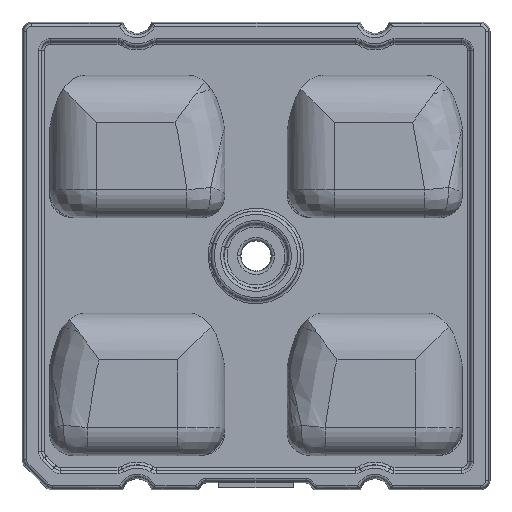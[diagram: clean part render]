
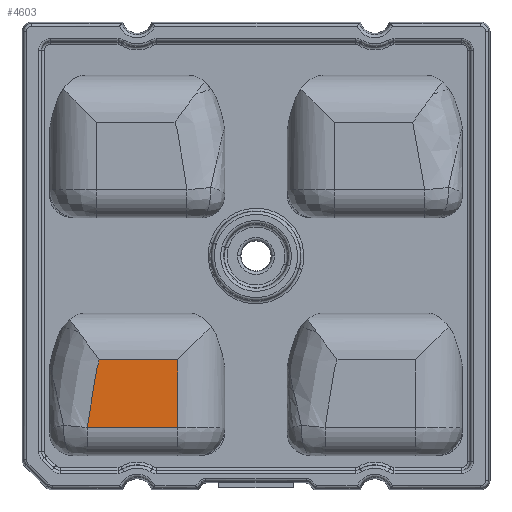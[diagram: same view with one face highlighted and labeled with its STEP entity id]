
A CAD part, top view. The second image highlights one B-rep face of the part: STEP entity #4603.
In plain terms, the highlighted planar face has unit normal (0, 0, 1).
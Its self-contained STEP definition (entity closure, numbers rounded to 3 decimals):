
#208=CARTESIAN_POINT('Axis2P3D Location',(0.,0.,6.25)) ;
#4394=CARTESIAN_POINT('Line Origine',(0.359,-23.811,6.25)) ;
#4398=CARTESIAN_POINT('Vertex',(4.352,-23.811,6.25)) ;
#4400=CARTESIAN_POINT('Vertex',(-4.047,-23.811,6.25)) ;
#4545=CARTESIAN_POINT('Line Origine',(4.352,-27.423,6.25)) ;
#4549=CARTESIAN_POINT('Vertex',(4.352,-31.036,6.25)) ;
#4553=CARTESIAN_POINT('Control Point',(-4.047,-23.811,6.25)) ;
#4554=CARTESIAN_POINT('Control Point',(-4.062,-23.86,6.25)) ;
#4555=CARTESIAN_POINT('Control Point',(-4.077,-23.908,6.25)) ;
#4556=CARTESIAN_POINT('Control Point',(-4.092,-23.956,6.25)) ;
#4557=CARTESIAN_POINT('Control Point',(-4.136,-24.099,6.25)) ;
#4558=CARTESIAN_POINT('Control Point',(-4.175,-24.23,6.25)) ;
#4559=CARTESIAN_POINT('Control Point',(-4.199,-24.311,6.25)) ;
#4560=CARTESIAN_POINT('Control Point',(-4.234,-24.436,6.25)) ;
#4561=CARTESIAN_POINT('Control Point',(-4.259,-24.535,6.25)) ;
#4562=CARTESIAN_POINT('Control Point',(-4.269,-24.576,6.25)) ;
#4563=CARTESIAN_POINT('Control Point',(-4.29,-24.664,6.25)) ;
#4564=CARTESIAN_POINT('Control Point',(-4.312,-24.773,6.25)) ;
#4565=CARTESIAN_POINT('Control Point',(-4.325,-24.835,6.25)) ;
#4566=CARTESIAN_POINT('Control Point',(-4.35,-24.967,6.25)) ;
#4567=CARTESIAN_POINT('Control Point',(-4.378,-25.119,6.25)) ;
#4568=CARTESIAN_POINT('Control Point',(-4.391,-25.193,6.25)) ;
#4569=CARTESIAN_POINT('Control Point',(-4.42,-25.356,6.25)) ;
#4570=CARTESIAN_POINT('Control Point',(-4.449,-25.526,6.25)) ;
#4571=CARTESIAN_POINT('Control Point',(-4.464,-25.618,6.25)) ;
#4572=CARTESIAN_POINT('Control Point',(-4.503,-25.852,6.25)) ;
#4573=CARTESIAN_POINT('Control Point',(-4.542,-26.09,6.25)) ;
#4574=CARTESIAN_POINT('Control Point',(-4.565,-26.235,6.25)) ;
#4575=CARTESIAN_POINT('Control Point',(-4.613,-26.53,6.25)) ;
#4576=CARTESIAN_POINT('Control Point',(-4.66,-26.826,6.25)) ;
#4577=CARTESIAN_POINT('Control Point',(-4.68,-26.951,6.25)) ;
#4578=CARTESIAN_POINT('Control Point',(-4.75,-27.388,6.25)) ;
#4579=CARTESIAN_POINT('Control Point',(-4.818,-27.821,6.25)) ;
#4580=CARTESIAN_POINT('Control Point',(-4.863,-28.105,6.25)) ;
#4581=CARTESIAN_POINT('Control Point',(-4.952,-28.669,6.25)) ;
#4582=CARTESIAN_POINT('Control Point',(-5.041,-29.235,6.25)) ;
#4583=CARTESIAN_POINT('Control Point',(-5.092,-29.561,6.25)) ;
#4584=CARTESIAN_POINT('Control Point',(-5.166,-30.033,6.25)) ;
#4585=CARTESIAN_POINT('Control Point',(-5.24,-30.503,6.25)) ;
#4586=CARTESIAN_POINT('Control Point',(-5.269,-30.69,6.25)) ;
#4587=CARTESIAN_POINT('Control Point',(-5.297,-30.867,6.25)) ;
#4588=CARTESIAN_POINT('Control Point',(-5.323,-31.036,6.25)) ;
#4589=CARTESIAN_POINT('Vertex',(-5.323,-31.036,6.25)) ;
#4592=CARTESIAN_POINT('Line Origine',(-0.486,-31.036,6.25)) ;
#209=DIRECTION('Axis2P3D Direction',(0.,0.,1.)) ;
#210=DIRECTION('Axis2P3D XDirection',(1.,0.,0.)) ;
#4395=DIRECTION('Vector Direction',(1.,0.,0.)) ;
#4546=DIRECTION('Vector Direction',(0.,1.,0.)) ;
#4593=DIRECTION('Vector Direction',(1.,0.,0.)) ;
#211=AXIS2_PLACEMENT_3D('Plane Axis2P3D',#208,#209,#210) ;
#4598=ORIENTED_EDGE('',*,*,#4551,.T.) ;
#4599=ORIENTED_EDGE('',*,*,#4402,.T.) ;
#4600=ORIENTED_EDGE('',*,*,#4591,.T.) ;
#4601=ORIENTED_EDGE('',*,*,#4596,.T.) ;
#4396=VECTOR('Line Direction',#4395,1.) ;
#4547=VECTOR('Line Direction',#4546,1.) ;
#4594=VECTOR('Line Direction',#4593,1.) ;
#4603=ADVANCED_FACE('Body.23',(#4602),#212,.T.) ;
#4552=B_SPLINE_CURVE_WITH_KNOTS('',5,(#4553,#4554,#4555,#4556,#4557,#4558,#4559,#4560,#4561,#4562,#4563,#4564,#4565,#4566,#4567,#4568,#4569,#4570,#4571,#4572,#4573,#4574,#4575,#4576,#4577,#4578,#4579,#4580,#4581,#4582,#4583,#4584,#4585,#4586,#4587,#4588),.UNSPECIFIED.,.F.,.U.,(6,3,3,3,3,3,3,3,3,3,3,6),(3.63,4.084,5.03,5.82,6.615,7.316,8.115,9.351,10.631,13.084,15.425,17.115),.UNSPECIFIED.) ;
#4402=EDGE_CURVE('',#4399,#4401,#4397,.F.) ;
#4551=EDGE_CURVE('',#4550,#4399,#4548,.T.) ;
#4591=EDGE_CURVE('',#4401,#4590,#4552,.T.) ;
#4596=EDGE_CURVE('',#4590,#4550,#4595,.T.) ;
#4597=EDGE_LOOP('',(#4598,#4599,#4600,#4601)) ;
#4602=FACE_OUTER_BOUND('',#4597,.T.) ;
#4397=LINE('Line',#4394,#4396) ;
#4548=LINE('Line',#4545,#4547) ;
#4595=LINE('Line',#4592,#4594) ;
#212=PLANE('Plane',#211) ;
#4399=VERTEX_POINT('',#4398) ;
#4401=VERTEX_POINT('',#4400) ;
#4550=VERTEX_POINT('',#4549) ;
#4590=VERTEX_POINT('',#4589) ;
